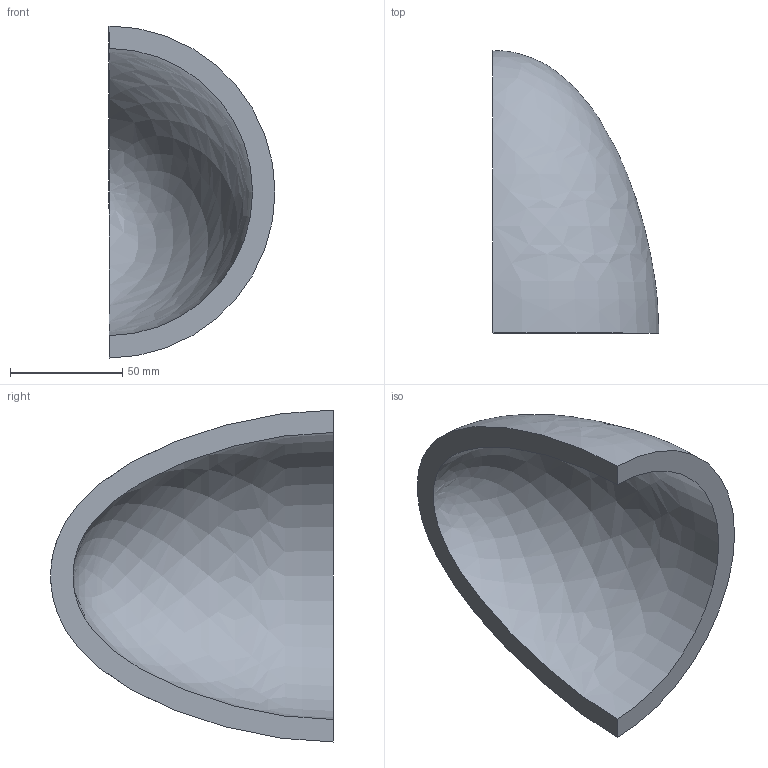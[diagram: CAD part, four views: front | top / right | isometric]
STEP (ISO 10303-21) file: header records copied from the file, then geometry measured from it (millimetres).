
FILE_DESCRIPTION(('CATIA V5 STEP Exchange'),'2;1');
FILE_NAME('C:\_Andres\UNIVERSIDAD\IQS\ASIGNATURAS\DAO\EXF\EXF-16172c\2inicio\Rabat_Riba_Ej10_v26.stp','2017-03-05T22:31:14+00:00',('none'),('none'),'CATIA Version 5-6 Release 2014 SP1 HF18','CATIA V5 STEP AP203','none');
FILE_SCHEMA(('CONFIG_CONTROL_DESIGN'));
Length unit declared in the file: millimetre
Products named in the file (1): Rabat_Riba_Ej10_v26
Bounding box: 74 x 126 x 148 mm (x, y, z)
Volume: 225020.7 mm3; surface area: 50305.1 mm2
Topology: 1 solids, 1 shells, 4 faces, 10 edges, 6 vertices
Faces by surface type: revolution 2, plane 2
Entity records: 248 total; most frequent: CARTESIAN_POINT 126, ORIENTED_EDGE 16, DIRECTION 10, EDGE_CURVE 8, B_SPLINE_CURVE_WITH_KNOTS 6, VERTEX_POINT 6, AXIS2_PLACEMENT_3D 5, ADVANCED_FACE 4
